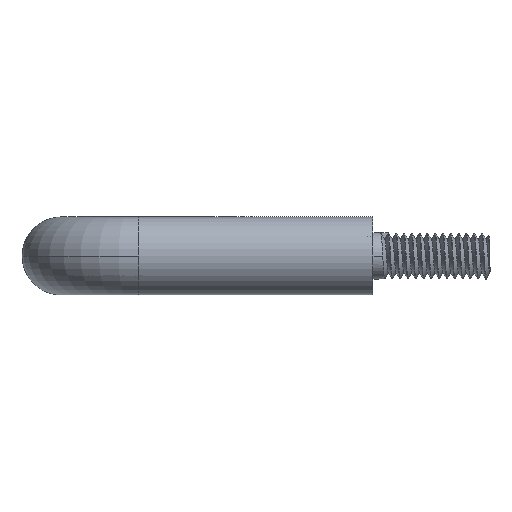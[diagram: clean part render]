
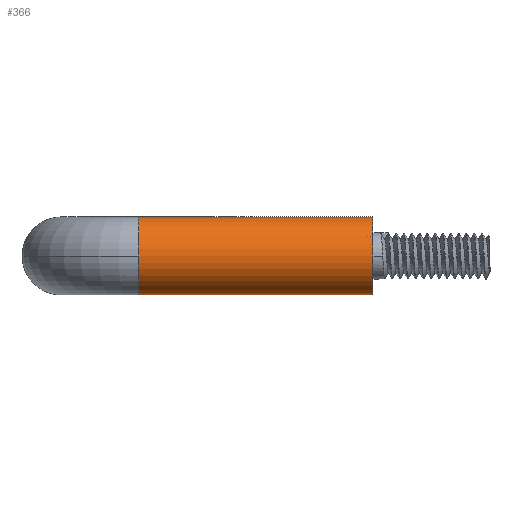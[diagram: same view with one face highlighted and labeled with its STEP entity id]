
A CAD part, left-side view. The second image highlights one B-rep face of the part: STEP entity #366.
In plain terms, the highlighted cylindrical face has radius 5 mm (diameter 10 mm), a partial arc.
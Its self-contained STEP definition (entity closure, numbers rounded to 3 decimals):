
#151 = DIRECTION ( 'NONE',  ( 0., 0., -1. ) ) ;
#181 = CARTESIAN_POINT ( 'NONE',  ( -55., -10., 5. ) ) ;
#184 = CARTESIAN_POINT ( 'NONE',  ( -55., -10., -5. ) ) ;
#205 = CARTESIAN_POINT ( 'NONE',  ( -55., -10., 0. ) ) ;
#229 = DIRECTION ( 'NONE',  ( 0., -1., 0. ) ) ;
#350 = VERTEX_POINT ( 'NONE', #184 ) ;
#366 = ADVANCED_FACE ( 'NONE', ( #738 ), #585, .T. ) ;
#471 = CARTESIAN_POINT ( 'NONE',  ( -55., -10., 5. ) ) ;
#567 = AXIS2_PLACEMENT_3D ( 'NONE', #801, #793, #769 ) ;
#585 = CYLINDRICAL_SURFACE ( 'NONE', #4471, 5. ) ;
#669 = DIRECTION ( 'NONE',  ( 1., 0., 0. ) ) ;
#681 = DIRECTION ( 'NONE',  ( 0., -1., 0. ) ) ;
#709 = CARTESIAN_POINT ( 'NONE',  ( -55., -10., 0. ) ) ;
#738 = FACE_OUTER_BOUND ( 'NONE', #4130, .T. ) ;
#769 = DIRECTION ( 'NONE',  ( 1., 0., 0. ) ) ;
#793 = DIRECTION ( 'NONE',  ( 0., -1., 0. ) ) ;
#801 = CARTESIAN_POINT ( 'NONE',  ( -55., -10., 0. ) ) ;
#850 = DIRECTION ( 'NONE',  ( 0., -1., 0. ) ) ;
#865 = ORIENTED_EDGE ( 'NONE', *, *, #4549, .T. ) ;
#910 = DIRECTION ( 'NONE',  ( 1., 0., 0. ) ) ;
#1005 = ORIENTED_EDGE ( 'NONE', *, *, #4856, .T. ) ;
#1288 = VERTEX_POINT ( 'NONE', #2627 ) ;
#1876 = ORIENTED_EDGE ( 'NONE', *, *, #5337, .F. ) ;
#1885 = ORIENTED_EDGE ( 'NONE', *, *, #5026, .F. ) ;
#1943 = ORIENTED_EDGE ( 'NONE', *, *, #1951, .T. ) ;
#1951 = EDGE_CURVE ( 'NONE', #3523, #2418, #5267, .T. ) ;
#2235 = VERTEX_POINT ( 'NONE', #3155 ) ;
#2367 = DIRECTION ( 'NONE',  ( 0., -1., 0. ) ) ;
#2418 = VERTEX_POINT ( 'NONE', #2559 ) ;
#2559 = CARTESIAN_POINT ( 'NONE',  ( -60., -10., 0. ) ) ;
#2627 = CARTESIAN_POINT ( 'NONE',  ( -55., -40., -5. ) ) ;
#2687 = CIRCLE ( 'NONE', #5426, 5. ) ;
#2719 = CARTESIAN_POINT ( 'NONE',  ( -55., -10., -5. ) ) ;
#2940 = CIRCLE ( 'NONE', #567, 5. ) ;
#3021 = VECTOR ( 'NONE', #2367, 1000. ) ;
#3034 = LINE ( 'NONE', #2719, #3021 ) ;
#3155 = CARTESIAN_POINT ( 'NONE',  ( -55., -40., 5. ) ) ;
#3523 = VERTEX_POINT ( 'NONE', #181 ) ;
#3823 = AXIS2_PLACEMENT_3D ( 'NONE', #709, #681, #669 ) ;
#4087 = DIRECTION ( 'NONE',  ( 0., -1., 0. ) ) ;
#4108 = CARTESIAN_POINT ( 'NONE',  ( -55., -40., 0. ) ) ;
#4130 = EDGE_LOOP ( 'NONE', ( #1876, #1943, #1005, #865, #1885 ) ) ;
#4471 = AXIS2_PLACEMENT_3D ( 'NONE', #205, #229, #151 ) ;
#4549 = EDGE_CURVE ( 'NONE', #350, #1288, #3034, .T. ) ;
#4856 = EDGE_CURVE ( 'NONE', #2418, #350, #2940, .T. ) ;
#5026 = EDGE_CURVE ( 'NONE', #2235, #1288, #2687, .T. ) ;
#5029 = VECTOR ( 'NONE', #850, 1000. ) ;
#5074 = LINE ( 'NONE', #471, #5029 ) ;
#5267 = CIRCLE ( 'NONE', #3823, 5. ) ;
#5337 = EDGE_CURVE ( 'NONE', #3523, #2235, #5074, .T. ) ;
#5426 = AXIS2_PLACEMENT_3D ( 'NONE', #4108, #4087, #910 ) ;
